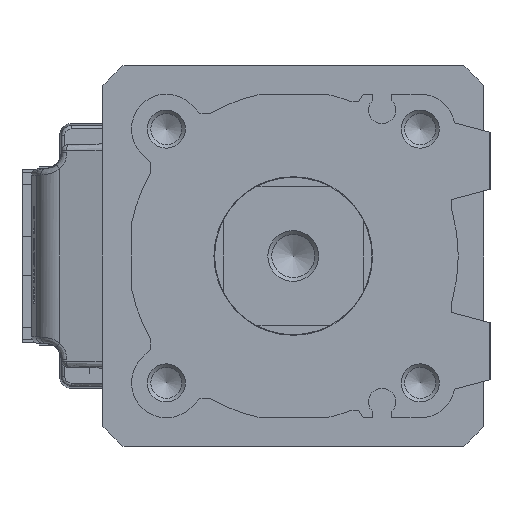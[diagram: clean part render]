
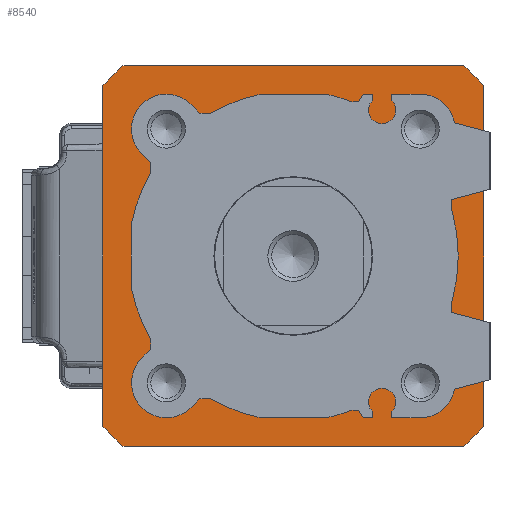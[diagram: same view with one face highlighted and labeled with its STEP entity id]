
A CAD part, left-side view. The second image highlights one B-rep face of the part: STEP entity #8540.
In plain terms, the highlighted planar face has unit normal (-1, 0, 0) as drawn and (0, 0, 1) by its records, which use the part's own axes.
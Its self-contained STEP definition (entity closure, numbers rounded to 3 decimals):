
#848 = CARTESIAN_POINT ( 'NONE',  ( 26.834, -30., 0. ) ) ;
#1709 = DIRECTION ( 'NONE',  ( 1., 0., 0. ) ) ;
#2141 = AXIS2_PLACEMENT_3D ( 'NONE', #3128, #15910, #31753 ) ;
#2846 = DIRECTION ( 'NONE',  ( 0., 0., 1. ) ) ;
#3128 = CARTESIAN_POINT ( 'NONE',  ( 0., 0., 0. ) ) ;
#3334 = ORIENTED_EDGE ( 'NONE', *, *, #22601, .F. ) ;
#5172 = CARTESIAN_POINT ( 'NONE',  ( -26.834, -30., 0. ) ) ;
#5694 = FACE_OUTER_BOUND ( 'NONE', #48610, .T. ) ;
#6909 = DIRECTION ( 'NONE',  ( 0., 0., 1. ) ) ;
#7353 = ORIENTED_EDGE ( 'NONE', *, *, #27942, .T. ) ;
#7463 = ORIENTED_EDGE ( 'NONE', *, *, #28626, .T. ) ;
#8540 = ADVANCED_FACE ( 'NONE', ( #49185, #5694 ), #17210, .T. ) ;
#8647 = AXIS2_PLACEMENT_3D ( 'NONE', #13935, #9397, #41084 ) ;
#8962 = VERTEX_POINT ( 'NONE', #39333 ) ;
#9017 = EDGE_CURVE ( 'NONE', #44706, #8962, #43901, .T. ) ;
#9042 = CARTESIAN_POINT ( 'NONE',  ( 0., 0., 0. ) ) ;
#9266 = VERTEX_POINT ( 'NONE', #11757 ) ;
#9397 = DIRECTION ( 'NONE',  ( 0., 0., 1. ) ) ;
#9441 = DIRECTION ( 'NONE',  ( 0., -1., 0. ) ) ;
#9646 = AXIS2_PLACEMENT_3D ( 'NONE', #9042, #32797, #33314 ) ;
#9671 = DIRECTION ( 'NONE',  ( 0., 0., 1. ) ) ;
#11026 = EDGE_CURVE ( 'NONE', #40716, #44706, #23144, .T. ) ;
#11155 = ORIENTED_EDGE ( 'NONE', *, *, #9017, .T. ) ;
#11757 = CARTESIAN_POINT ( 'NONE',  ( 15.6, 0., 0. ) ) ;
#12402 = CARTESIAN_POINT ( 'NONE',  ( -30., -26.834, 0. ) ) ;
#13582 = DIRECTION ( 'NONE',  ( 1., 0., 0. ) ) ;
#13935 = CARTESIAN_POINT ( 'NONE',  ( 0., 0., 0. ) ) ;
#13994 = EDGE_CURVE ( 'NONE', #9266, #17082, #18492, .T. ) ;
#14364 = CARTESIAN_POINT ( 'NONE',  ( 0., 0., 0. ) ) ;
#15212 = EDGE_CURVE ( 'NONE', #42983, #16865, #17432, .T. ) ;
#15910 = DIRECTION ( 'NONE',  ( 0., 0., 1. ) ) ;
#15934 = ORIENTED_EDGE ( 'NONE', *, *, #11026, .T. ) ;
#16573 = AXIS2_PLACEMENT_3D ( 'NONE', #14364, #29956, #26124 ) ;
#16865 = VERTEX_POINT ( 'NONE', #848 ) ;
#17082 = VERTEX_POINT ( 'NONE', #47614 ) ;
#17210 = PLANE ( 'NONE',  #9646 ) ;
#17432 = LINE ( 'NONE', #33028, #35294 ) ;
#18161 = ORIENTED_EDGE ( 'NONE', *, *, #13994, .F. ) ;
#18422 = VERTEX_POINT ( 'NONE', #25593 ) ;
#18492 = CIRCLE ( 'NONE', #2141, 15.6 ) ;
#19053 = CARTESIAN_POINT ( 'NONE',  ( 26.834, 30., 0. ) ) ;
#19828 = VECTOR ( 'NONE', #9441, 1000. ) ;
#19956 = CARTESIAN_POINT ( 'NONE',  ( -30., 26.834, 0. ) ) ;
#20349 = ORIENTED_EDGE ( 'NONE', *, *, #45017, .T. ) ;
#22601 = EDGE_CURVE ( 'NONE', #17082, #9266, #45382, .T. ) ;
#23144 = LINE ( 'NONE', #19053, #37815 ) ;
#24423 = VERTEX_POINT ( 'NONE', #41226 ) ;
#25593 = CARTESIAN_POINT ( 'NONE',  ( 30., 26.834, 0. ) ) ;
#26124 = DIRECTION ( 'NONE',  ( 1., 0., 0. ) ) ;
#26240 = DIRECTION ( 'NONE',  ( 1., 0., 0. ) ) ;
#26631 = DIRECTION ( 'NONE',  ( 1., 0., 0. ) ) ;
#27061 = CARTESIAN_POINT ( 'NONE',  ( -26.834, 30., 0. ) ) ;
#27163 = CIRCLE ( 'NONE', #16573, 40.25 ) ;
#27942 = EDGE_CURVE ( 'NONE', #18422, #40716, #36913, .T. ) ;
#28562 = CARTESIAN_POINT ( 'NONE',  ( 0., 0., 0. ) ) ;
#28626 = EDGE_CURVE ( 'NONE', #48950, #42983, #27163, .T. ) ;
#28979 = ORIENTED_EDGE ( 'NONE', *, *, #42185, .T. ) ;
#29261 = VECTOR ( 'NONE', #42141, 1000. ) ;
#29956 = DIRECTION ( 'NONE',  ( 0., 0., 1. ) ) ;
#31356 = CARTESIAN_POINT ( 'NONE',  ( 30., -26.834, 0. ) ) ;
#31753 = DIRECTION ( 'NONE',  ( 1., 0., 0. ) ) ;
#32797 = DIRECTION ( 'NONE',  ( 0., 0., 1. ) ) ;
#33028 = CARTESIAN_POINT ( 'NONE',  ( -26.834, -30., 0. ) ) ;
#33314 = DIRECTION ( 'NONE',  ( 1., 0., 0. ) ) ;
#35294 = VECTOR ( 'NONE', #13582, 1000. ) ;
#36913 = CIRCLE ( 'NONE', #44286, 40.25 ) ;
#37273 = AXIS2_PLACEMENT_3D ( 'NONE', #42501, #2846, #26631 ) ;
#37340 = AXIS2_PLACEMENT_3D ( 'NONE', #28562, #9671, #1709 ) ;
#37815 = VECTOR ( 'NONE', #50299, 1000. ) ;
#39333 = CARTESIAN_POINT ( 'NONE',  ( -30., 26.834, 0. ) ) ;
#40543 = CIRCLE ( 'NONE', #37273, 40.25 ) ;
#40577 = EDGE_LOOP ( 'NONE', ( #3334, #18161 ) ) ;
#40716 = VERTEX_POINT ( 'NONE', #40874 ) ;
#40867 = ORIENTED_EDGE ( 'NONE', *, *, #15212, .T. ) ;
#40874 = CARTESIAN_POINT ( 'NONE',  ( 26.834, 30., 0. ) ) ;
#41084 = DIRECTION ( 'NONE',  ( 1., 0., 0. ) ) ;
#41226 = CARTESIAN_POINT ( 'NONE',  ( 30., -26.834, 0. ) ) ;
#41973 = CARTESIAN_POINT ( 'NONE',  ( 0., 0., 0. ) ) ;
#42141 = DIRECTION ( 'NONE',  ( 0., 1., 0. ) ) ;
#42185 = EDGE_CURVE ( 'NONE', #16865, #24423, #40543, .T. ) ;
#42501 = CARTESIAN_POINT ( 'NONE',  ( 0., 0., 0. ) ) ;
#42983 = VERTEX_POINT ( 'NONE', #5172 ) ;
#43270 = LINE ( 'NONE', #19956, #19828 ) ;
#43901 = CIRCLE ( 'NONE', #37340, 40.25 ) ;
#44286 = AXIS2_PLACEMENT_3D ( 'NONE', #41973, #6909, #26240 ) ;
#44706 = VERTEX_POINT ( 'NONE', #27061 ) ;
#45017 = EDGE_CURVE ( 'NONE', #24423, #18422, #50565, .T. ) ;
#45382 = CIRCLE ( 'NONE', #8647, 15.6 ) ;
#47614 = CARTESIAN_POINT ( 'NONE',  ( -15.6, 0., 0. ) ) ;
#48610 = EDGE_LOOP ( 'NONE', ( #11155, #49545, #7463, #40867, #28979, #20349, #7353, #15934 ) ) ;
#48950 = VERTEX_POINT ( 'NONE', #12402 ) ;
#49185 = FACE_BOUND ( 'NONE', #40577, .T. ) ;
#49545 = ORIENTED_EDGE ( 'NONE', *, *, #49617, .T. ) ;
#49617 = EDGE_CURVE ( 'NONE', #8962, #48950, #43270, .T. ) ;
#50299 = DIRECTION ( 'NONE',  ( -1., 0., 0. ) ) ;
#50565 = LINE ( 'NONE', #31356, #29261 ) ;
